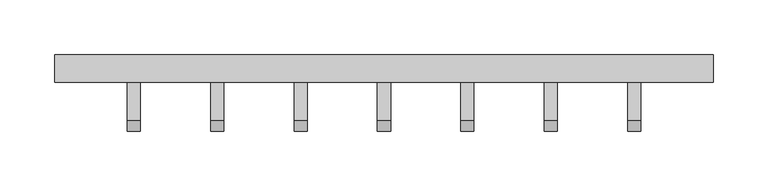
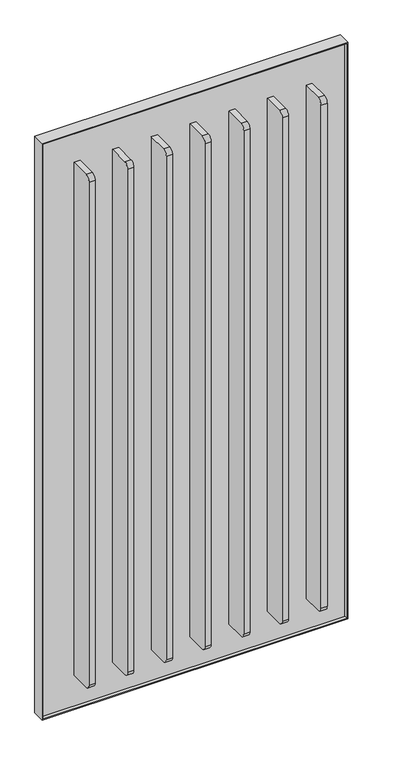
"""IFC4 building model written with IfcOpenShell, lengths in millimetres: proxy geometry, Frame_Cascade 9.3dm."""

from ifc_helpers import new_model, si_unit, point, frame, frame_2d, origin, place, context, project, spatial, polyline, circle_curve, trimmed, segment, composite_curve, outline, extrude, source, transform, mapped, element, save


def generic_models_f3aebc7d(model_context):
    return source(origin(), model_context, "Body", "SweptSolid", [
        extrude(outline(composite_curve([segment(trimmed(circle_curve(frame_2d((72.7568681, 486.9364254)), 10.0), [point((72.7568681, 476.9364254))], [point((62.7568681, 486.9364254))], False, "CARTESIAN"), True, "CONTINUOUS"), segment(polyline([(62.7568681, 486.9364254), (62.7568681, 1537.9364254)]), True, "CONTINUOUS"), segment(trimmed(circle_curve(frame_2d((72.7568681, 1537.9364254)), 10.0), [point((62.7568681, 1537.9364254))], [point((72.7568681, 1547.9364254))], False, "CARTESIAN"), True, "CONTINUOUS"), segment(polyline([(72.7568681, 1547.9364254), (114.2568681, 1547.9364254), (114.2568681, 476.9364254), (72.7568681, 476.9364254)]), True, "CONTINUOUS")], self_intersect=False)), frame((2552.0516321, 0.0, 0.0), z_axis=(1.0, 0.0, 0.0), x_axis=(0.0, 1.0, 0.0)), (0.0, 0.0, 1.0), 12.0),
        extrude(outline(composite_curve([segment(trimmed(circle_curve(frame_2d((72.7568681, 486.9364254)), 10.0), [point((72.7568681, 476.9364254))], [point((62.7568681, 486.9364254))], False, "CARTESIAN"), True, "CONTINUOUS"), segment(polyline([(62.7568681, 486.9364254), (62.7568681, 1537.9364254)]), True, "CONTINUOUS"), segment(trimmed(circle_curve(frame_2d((72.7568681, 1537.9364254)), 10.0), [point((62.7568681, 1537.9364254))], [point((72.7568681, 1547.9364254))], False, "CARTESIAN"), True, "CONTINUOUS"), segment(polyline([(72.7568681, 1547.9364254), (114.2568681, 1547.9364254), (114.2568681, 476.9364254), (72.7568681, 476.9364254)]), True, "CONTINUOUS")], self_intersect=False)), frame((2628.5516321, 0.0, 0.0), z_axis=(1.0, 0.0, 0.0), x_axis=(0.0, 1.0, 0.0)), (0.0, 0.0, 1.0), 12.0),
        extrude(outline(composite_curve([segment(trimmed(circle_curve(frame_2d((72.7568681, 486.9364254)), 10.0), [point((72.7568681, 476.9364254))], [point((62.7568681, 486.9364254))], False, "CARTESIAN"), True, "CONTINUOUS"), segment(polyline([(62.7568681, 486.9364254), (62.7568681, 1537.9364254)]), True, "CONTINUOUS"), segment(trimmed(circle_curve(frame_2d((72.7568681, 1537.9364254)), 10.0), [point((62.7568681, 1537.9364254))], [point((72.7568681, 1547.9364254))], False, "CARTESIAN"), True, "CONTINUOUS"), segment(polyline([(72.7568681, 1547.9364254), (114.2568681, 1547.9364254), (114.2568681, 476.9364254), (72.7568681, 476.9364254)]), True, "CONTINUOUS")], self_intersect=False)), frame((2781.5516321, 0.0, 0.0), z_axis=(1.0, 0.0, 0.0), x_axis=(0.0, 1.0, 0.0)), (0.0, 0.0, 1.0), 12.0),
        extrude(outline(composite_curve([segment(trimmed(circle_curve(frame_2d((72.7568681, 486.9364254)), 10.0), [point((72.7568681, 476.9364254))], [point((62.7568681, 486.9364254))], False, "CARTESIAN"), True, "CONTINUOUS"), segment(polyline([(62.7568681, 486.9364254), (62.7568681, 1537.9364254)]), True, "CONTINUOUS"), segment(trimmed(circle_curve(frame_2d((72.7568681, 1537.9364254)), 10.0), [point((62.7568681, 1537.9364254))], [point((72.7568681, 1547.9364254))], False, "CARTESIAN"), True, "CONTINUOUS"), segment(polyline([(72.7568681, 1547.9364254), (114.2568681, 1547.9364254), (114.2568681, 476.9364254), (72.7568681, 476.9364254)]), True, "CONTINUOUS")], self_intersect=False)), frame((2858.0516321, 0.0, 0.0), z_axis=(1.0, 0.0, 0.0), x_axis=(0.0, 1.0, 0.0)), (0.0, 0.0, 1.0), 12.0),
        extrude(outline(composite_curve([segment(trimmed(circle_curve(frame_2d((72.7568681, 486.9364254)), 10.0), [point((72.7568681, 476.9364254))], [point((62.7568681, 486.9364254))], False, "CARTESIAN"), True, "CONTINUOUS"), segment(polyline([(62.7568681, 486.9364254), (62.7568681, 1537.9364254)]), True, "CONTINUOUS"), segment(trimmed(circle_curve(frame_2d((72.7568681, 1537.9364254)), 10.0), [point((62.7568681, 1537.9364254))], [point((72.7568681, 1547.9364254))], False, "CARTESIAN"), True, "CONTINUOUS"), segment(polyline([(72.7568681, 1547.9364254), (114.2568681, 1547.9364254), (114.2568681, 476.9364254), (72.7568681, 476.9364254)]), True, "CONTINUOUS")], self_intersect=False)), frame((2399.0516321, 0.0, 0.0), z_axis=(1.0, 0.0, 0.0), x_axis=(0.0, 1.0, 0.0)), (0.0, 0.0, 1.0), 12.0),
        extrude(outline(composite_curve([segment(trimmed(circle_curve(frame_2d((72.7568681, 486.9364254)), 10.0), [point((72.7568681, 476.9364254))], [point((62.7568681, 486.9364254))], False, "CARTESIAN"), True, "CONTINUOUS"), segment(polyline([(62.7568681, 486.9364254), (62.7568681, 1537.9364254)]), True, "CONTINUOUS"), segment(trimmed(circle_curve(frame_2d((72.7568681, 1537.9364254)), 10.0), [point((62.7568681, 1537.9364254))], [point((72.7568681, 1547.9364254))], False, "CARTESIAN"), True, "CONTINUOUS"), segment(polyline([(72.7568681, 1547.9364254), (114.2568681, 1547.9364254), (114.2568681, 476.9364254), (72.7568681, 476.9364254)]), True, "CONTINUOUS")], self_intersect=False)), frame((2475.5516321, 0.0, 0.0), z_axis=(1.0, 0.0, 0.0), x_axis=(0.0, 1.0, 0.0)), (0.0, 0.0, 1.0), 12.0),
        extrude(outline(composite_curve([segment(trimmed(circle_curve(frame_2d((72.7568681, 486.9364254)), 10.0), [point((72.7568681, 476.9364254))], [point((62.7568681, 486.9364254))], False, "CARTESIAN"), True, "CONTINUOUS"), segment(polyline([(62.7568681, 486.9364254), (62.7568681, 1537.9364254)]), True, "CONTINUOUS"), segment(trimmed(circle_curve(frame_2d((72.7568681, 1537.9364254)), 10.0), [point((62.7568681, 1537.9364254))], [point((72.7568681, 1547.9364254))], False, "CARTESIAN"), True, "CONTINUOUS"), segment(polyline([(72.7568681, 1547.9364254), (114.2568681, 1547.9364254), (114.2568681, 476.9364254), (72.7568681, 476.9364254)]), True, "CONTINUOUS")], self_intersect=False)), frame((2705.0516321, 0.0, 0.0), z_axis=(1.0, 0.0, 0.0), x_axis=(0.0, 1.0, 0.0)), (0.0, 0.0, 1.0), 12.0),
        extrude(outline(polyline([(2934.5516321, 114.2568681), (2334.5516321, 114.2568681), (2334.5516321, 126.2568681), (2934.5516321, 126.2568681), (2934.5516321, 114.2568681)])), frame((0.0, 0.0, 412.4364254), z_axis=(0.0, 0.0, 1.0), x_axis=(1.0, 0.0, 0.0)), (0.0, 0.0, 1.0), 1200.0),
        extrude(outline(polyline([(410.4364254, 2332.5516321), (410.4364254, 2936.5516321), (1614.4364254, 2936.5516321), (1614.4364254, 2332.5516321), (410.4364254, 2332.5516321)]), holes=[polyline([(412.4364254, 2334.5516321), (1612.4364254, 2334.5516321), (1612.4364254, 2934.5516321), (412.4364254, 2934.5516321), (412.4364254, 2334.5516321)])]), frame((0.0, 107.5568681, 0.0), z_axis=(0.0, 1.0, 0.0), x_axis=(0.0, 0.0, 1.0)), (0.0, 0.0, 1.0), 25.4),
    ])


if __name__ == "__main__":
    model = new_model("IFC4")
    model_context = context("Model", 3, world=origin())
    ifc_project = project(units=[si_unit("LENGTHUNIT", "METRE", prefix="MILLI")], contexts=[model_context])
    site = spatial("IfcSite", under=ifc_project)
    building = spatial("IfcBuilding", under=site)
    placement = place(None, origin())
    generic_models_shape = generic_models_f3aebc7d(model_context)
    element("IfcBuildingElementProxy", 1, Name="Frame_Cascade 9.3dm", ObjectType="Frame_Cascade 9.3dm", at=placement, inside=building, context=model_context, shape_type="MappedRepresentation", body=[
        mapped(generic_models_shape, transform((0.0, 0.0, 0.0), x_axis=(1.0, 0.0, 0.0), y_axis=(0.0, 1.0, 0.0), z_axis=(0.0, 0.0, 1.0))),
    ])
    save(model, "model.ifc")
